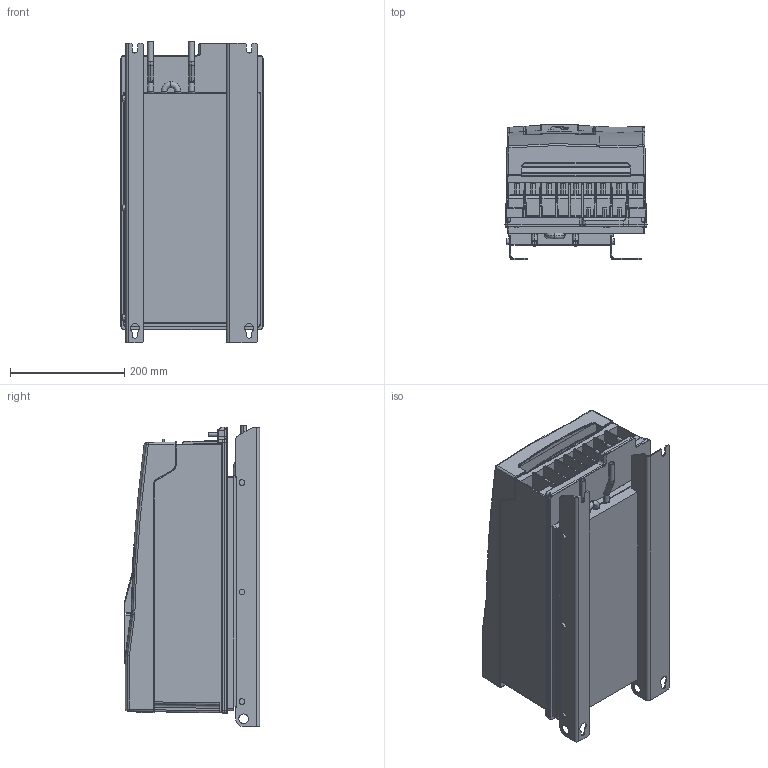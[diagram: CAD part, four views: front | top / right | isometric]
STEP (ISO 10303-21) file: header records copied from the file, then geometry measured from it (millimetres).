
FILE_DESCRIPTION (( 'STEP AP214' ), '1' );
FILE_NAME ('F6-6TW0-A010.STEP', '2020-12-09T13:22:22', ( '' ), ( '' ), 'SwSTEP 2.0', 'SolidWorks 2019', '' );
FILE_SCHEMA (( 'AUTOMOTIVE_DESIGN' ));
Length unit declared in the file: millimetre
Products named in the file (11): F6-6TW0-A010; 10044643_000_Kundenmodell; 10059761_000; 10061794_000; 10046074_000_Leistungsteil F6-6 TW0 (Kundenmodell); 10061793_000_Deckelbaugruppe F6-6 (Kundenmodell); 10027052_000_Geh„usebaugruppe F6-6 (Kundenmodell); 10059764_000_Blindabdeckung (Kundenmodell); 10059765_000; 10061956_000; 10060787_000
Assembly tree (10 placements, depth 4):
  F6-6TW0-A010
    10046074_000_Leistungsteil F6-6 TW0 (Kundenmodell)
      10061956_000
    10027052_000_Geh„usebaugruppe F6-6 (Kundenmodell)
      10061793_000_Deckelbaugruppe F6-6 (Kundenmodell)
        10061794_000
      10060787_000
    10044643_000_Kundenmodell
      10059764_000_Blindabdeckung (Kundenmodell)
        10059765_000
      10059761_000
Bounding box: 249 x 236.9 x 528.7 mm (x, y, z)
Volume: 20530669.3 mm3; surface area: 1350798.9 mm2
Topology: 12 solids, 24 shells, 3086 faces, 7879 edges, 4771 vertices
Faces by surface type: plane 1092, cylinder 1052, bspline 584, torus 168, sphere 111, cone 79
Entity records: 105763 total; most frequent: CARTESIAN_POINT 36306, ORIENTED_EDGE 15462, DIRECTION 13347, EDGE_CURVE 7731, AXIS2_PLACEMENT_3D 4783, VERTEX_POINT 4769, LINE 3781, VECTOR 3781
